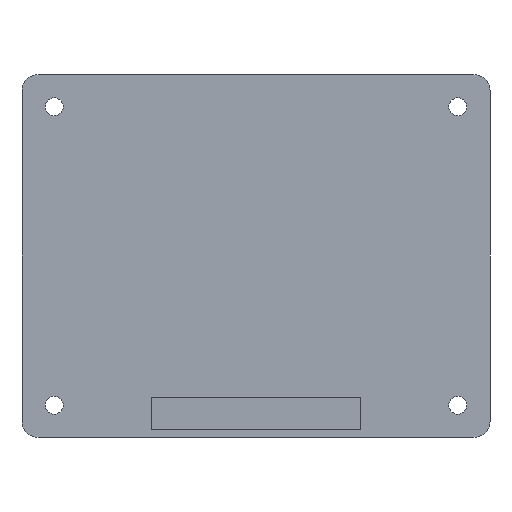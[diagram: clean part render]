
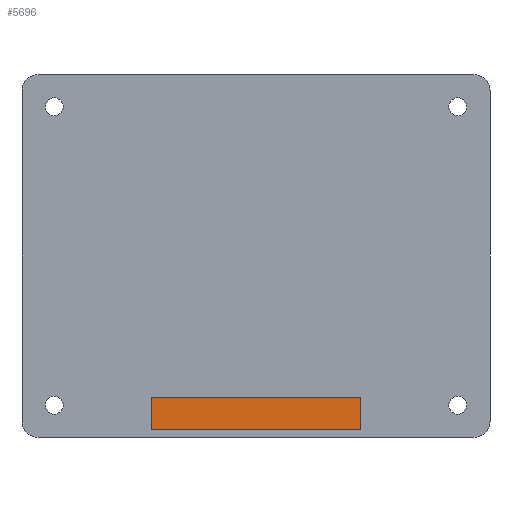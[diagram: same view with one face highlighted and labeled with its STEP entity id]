
A CAD part, front view. The second image highlights one B-rep face of the part: STEP entity #5696.
In plain terms, the highlighted planar face has unit normal (0, -1, 0).
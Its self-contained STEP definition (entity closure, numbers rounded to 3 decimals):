
#420 = PLANE('',#421);
#421 = AXIS2_PLACEMENT_3D('',#422,#423,#424);
#422 = CARTESIAN_POINT('',(-13.,-41.,186.));
#423 = DIRECTION('',(0.,0.,1.));
#424 = DIRECTION('',(1.,0.,-0.));
#448 = PLANE('',#449);
#449 = AXIS2_PLACEMENT_3D('',#450,#451,#452);
#450 = CARTESIAN_POINT('',(-13.,-41.,182.));
#451 = DIRECTION('',(1.,0.,-0.));
#452 = DIRECTION('',(0.,0.,1.));
#476 = PLANE('',#477);
#477 = AXIS2_PLACEMENT_3D('',#478,#479,#480);
#478 = CARTESIAN_POINT('',(-13.,-41.,182.));
#479 = DIRECTION('',(0.,0.,1.));
#480 = DIRECTION('',(1.,0.,-0.));
#502 = PLANE('',#503);
#503 = AXIS2_PLACEMENT_3D('',#504,#505,#506);
#504 = CARTESIAN_POINT('',(13.,-41.,182.));
#505 = DIRECTION('',(1.,0.,-0.));
#506 = DIRECTION('',(0.,0.,1.));
#2630 = VERTEX_POINT('',#2631);
#2631 = CARTESIAN_POINT('',(-13.,-41.,186.));
#2652 = EDGE_CURVE('',#2630,#2653,#2655,.T.);
#2653 = VERTEX_POINT('',#2654);
#2654 = CARTESIAN_POINT('',(13.,-41.,186.));
#2655 = SURFACE_CURVE('',#2656,(#2660,#2667),.PCURVE_S1.);
#2656 = LINE('',#2657,#2658);
#2657 = CARTESIAN_POINT('',(-13.,-41.,186.));
#2658 = VECTOR('',#2659,1.);
#2659 = DIRECTION('',(1.,0.,-0.));
#2660 = PCURVE('',#420,#2661);
#2661 = DEFINITIONAL_REPRESENTATION('',(#2662),#2666);
#2662 = LINE('',#2663,#2664);
#2663 = CARTESIAN_POINT('',(0.,0.));
#2664 = VECTOR('',#2665,1.);
#2665 = DIRECTION('',(1.,0.));
#2666 = ( GEOMETRIC_REPRESENTATION_CONTEXT(2) 
PARAMETRIC_REPRESENTATION_CONTEXT() REPRESENTATION_CONTEXT('2D SPACE',''
  ) );
#2667 = PCURVE('',#2668,#2673);
#2668 = PLANE('',#2669);
#2669 = AXIS2_PLACEMENT_3D('',#2670,#2671,#2672);
#2670 = CARTESIAN_POINT('',(-13.,-41.,182.));
#2671 = DIRECTION('',(-0.,1.,0.));
#2672 = DIRECTION('',(0.,0.,1.));
#2673 = DEFINITIONAL_REPRESENTATION('',(#2674),#2678);
#2674 = LINE('',#2675,#2676);
#2675 = CARTESIAN_POINT('',(4.,0.));
#2676 = VECTOR('',#2677,1.);
#2677 = DIRECTION('',(0.,1.));
#2678 = ( GEOMETRIC_REPRESENTATION_CONTEXT(2) 
PARAMETRIC_REPRESENTATION_CONTEXT() REPRESENTATION_CONTEXT('2D SPACE',''
  ) );
#2705 = EDGE_CURVE('',#2706,#2653,#2708,.T.);
#2706 = VERTEX_POINT('',#2707);
#2707 = CARTESIAN_POINT('',(13.,-41.,182.));
#2708 = SURFACE_CURVE('',#2709,(#2713,#2720),.PCURVE_S1.);
#2709 = LINE('',#2710,#2711);
#2710 = CARTESIAN_POINT('',(13.,-41.,182.));
#2711 = VECTOR('',#2712,1.);
#2712 = DIRECTION('',(0.,0.,1.));
#2713 = PCURVE('',#502,#2714);
#2714 = DEFINITIONAL_REPRESENTATION('',(#2715),#2719);
#2715 = LINE('',#2716,#2717);
#2716 = CARTESIAN_POINT('',(0.,0.));
#2717 = VECTOR('',#2718,1.);
#2718 = DIRECTION('',(1.,0.));
#2719 = ( GEOMETRIC_REPRESENTATION_CONTEXT(2) 
PARAMETRIC_REPRESENTATION_CONTEXT() REPRESENTATION_CONTEXT('2D SPACE',''
  ) );
#2720 = PCURVE('',#2668,#2721);
#2721 = DEFINITIONAL_REPRESENTATION('',(#2722),#2726);
#2722 = LINE('',#2723,#2724);
#2723 = CARTESIAN_POINT('',(0.,26.));
#2724 = VECTOR('',#2725,1.);
#2725 = DIRECTION('',(1.,0.));
#2726 = ( GEOMETRIC_REPRESENTATION_CONTEXT(2) 
PARAMETRIC_REPRESENTATION_CONTEXT() REPRESENTATION_CONTEXT('2D SPACE',''
  ) );
#2755 = VERTEX_POINT('',#2756);
#2756 = CARTESIAN_POINT('',(-13.,-41.,182.));
#2777 = EDGE_CURVE('',#2755,#2706,#2778,.T.);
#2778 = SURFACE_CURVE('',#2779,(#2783,#2790),.PCURVE_S1.);
#2779 = LINE('',#2780,#2781);
#2780 = CARTESIAN_POINT('',(-13.,-41.,182.));
#2781 = VECTOR('',#2782,1.);
#2782 = DIRECTION('',(1.,0.,-0.));
#2783 = PCURVE('',#476,#2784);
#2784 = DEFINITIONAL_REPRESENTATION('',(#2785),#2789);
#2785 = LINE('',#2786,#2787);
#2786 = CARTESIAN_POINT('',(0.,0.));
#2787 = VECTOR('',#2788,1.);
#2788 = DIRECTION('',(1.,0.));
#2789 = ( GEOMETRIC_REPRESENTATION_CONTEXT(2) 
PARAMETRIC_REPRESENTATION_CONTEXT() REPRESENTATION_CONTEXT('2D SPACE',''
  ) );
#2790 = PCURVE('',#2668,#2791);
#2791 = DEFINITIONAL_REPRESENTATION('',(#2792),#2796);
#2792 = LINE('',#2793,#2794);
#2793 = CARTESIAN_POINT('',(0.,0.));
#2794 = VECTOR('',#2795,1.);
#2795 = DIRECTION('',(0.,1.));
#2796 = ( GEOMETRIC_REPRESENTATION_CONTEXT(2) 
PARAMETRIC_REPRESENTATION_CONTEXT() REPRESENTATION_CONTEXT('2D SPACE',''
  ) );
#2803 = EDGE_CURVE('',#2755,#2630,#2804,.T.);
#2804 = SURFACE_CURVE('',#2805,(#2809,#2816),.PCURVE_S1.);
#2805 = LINE('',#2806,#2807);
#2806 = CARTESIAN_POINT('',(-13.,-41.,182.));
#2807 = VECTOR('',#2808,1.);
#2808 = DIRECTION('',(0.,0.,1.));
#2809 = PCURVE('',#448,#2810);
#2810 = DEFINITIONAL_REPRESENTATION('',(#2811),#2815);
#2811 = LINE('',#2812,#2813);
#2812 = CARTESIAN_POINT('',(0.,0.));
#2813 = VECTOR('',#2814,1.);
#2814 = DIRECTION('',(1.,0.));
#2815 = ( GEOMETRIC_REPRESENTATION_CONTEXT(2) 
PARAMETRIC_REPRESENTATION_CONTEXT() REPRESENTATION_CONTEXT('2D SPACE',''
  ) );
#2816 = PCURVE('',#2668,#2817);
#2817 = DEFINITIONAL_REPRESENTATION('',(#2818),#2822);
#2818 = LINE('',#2819,#2820);
#2819 = CARTESIAN_POINT('',(0.,0.));
#2820 = VECTOR('',#2821,1.);
#2821 = DIRECTION('',(1.,0.));
#2822 = ( GEOMETRIC_REPRESENTATION_CONTEXT(2) 
PARAMETRIC_REPRESENTATION_CONTEXT() REPRESENTATION_CONTEXT('2D SPACE',''
  ) );
#5696 = ADVANCED_FACE('',(#5697),#2668,.F.);
#5697 = FACE_BOUND('',#5698,.F.);
#5698 = EDGE_LOOP('',(#5699,#5700,#5701,#5702));
#5699 = ORIENTED_EDGE('',*,*,#2777,.F.);
#5700 = ORIENTED_EDGE('',*,*,#2803,.T.);
#5701 = ORIENTED_EDGE('',*,*,#2652,.T.);
#5702 = ORIENTED_EDGE('',*,*,#2705,.F.);
